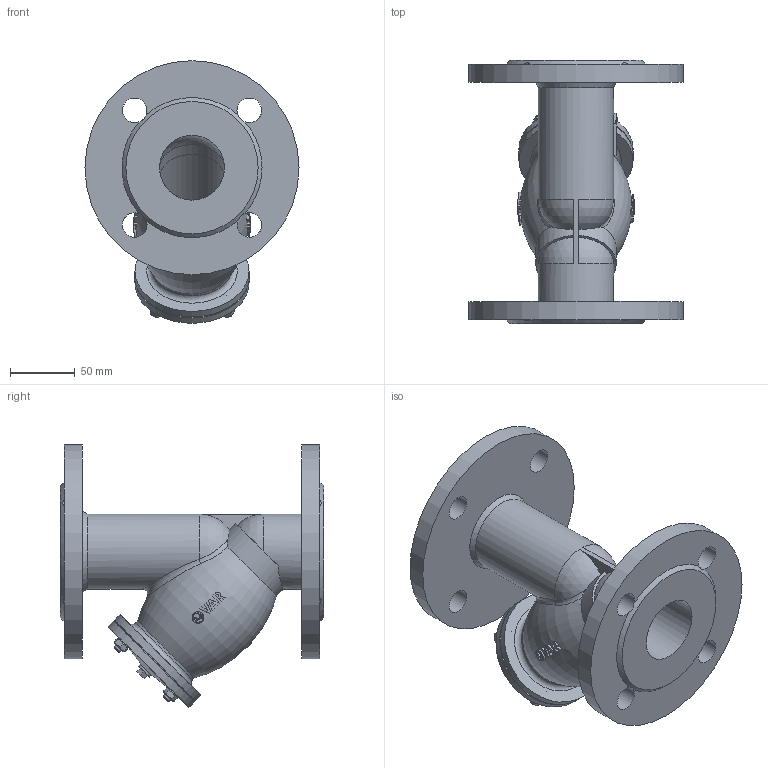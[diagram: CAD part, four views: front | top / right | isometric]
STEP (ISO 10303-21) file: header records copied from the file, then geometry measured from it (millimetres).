
FILE_DESCRIPTION(('STEP AP203'), '1');
FILE_NAME('VAR STRAINER ôèëüòð-ãðÿçåóëîâèòåëü', '', ('UNSPECIFIED'), ('UNSPECIFIED'), 'C3D Converter', 'C3D Toolkit', '');
FILE_SCHEMA(('CONFIG_CONTROL_DESIGN'));
Length unit declared in the file: millimetre
Assembly tree (17 placements, depth 2):
  (unnamed)
    (unnamed)
    (unnamed)
    (unnamed)  x4
    (unnamed)  x4
    (unnamed)  x4
    (unnamed)
    (unnamed)
    (unnamed)
Bounding box: 165 x 203 x 202.5 mm (x, y, z)
Volume: 863354.2 mm3; surface area: 252701.7 mm2
Topology: 17 solids, 17 shells, 432 faces, 1091 edges, 717 vertices
Faces by surface type: plane 171, extrusion 134, cylinder 56, cone 31, torus 26, sphere 8, bspline 6
Full cylindrical faces by diameter (mm): 6 x12, 7 x4, 8 x6, 9.094 x1, 10.8 x4, 12 x1, 19 x8, 50 x6, 54 x3, 58 x1, 60 x1, 62 x3, 88 x2, 165 x2
Entity records: 23212 total; most frequent: CARTESIAN_POINT 12410, ORIENTED_EDGE 1792, DIRECTION 1264, EDGE_CURVE 896, VERTEX_POINT 633, B_SPLINE_CURVE_WITH_KNOTS 570, EDGE_LOOP 497, AXIS2_PLACEMENT_3D 438
